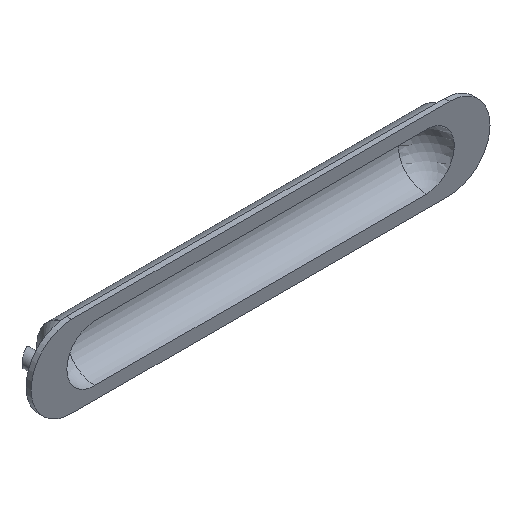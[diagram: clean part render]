
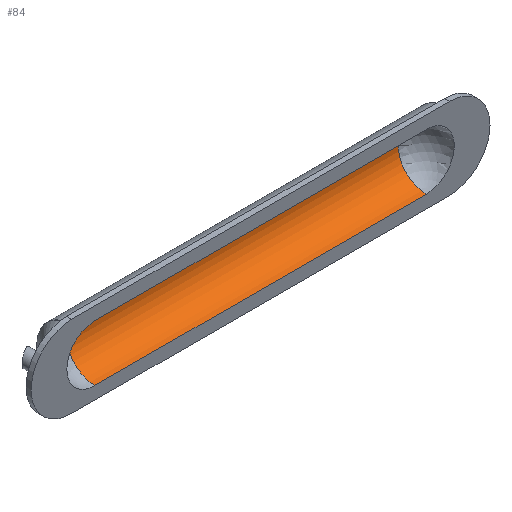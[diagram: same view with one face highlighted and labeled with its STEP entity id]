
A CAD part, isometric view. The second image highlights one B-rep face of the part: STEP entity #84.
In plain terms, the highlighted cylindrical face has radius 5.5 mm (diameter 11 mm), a partial arc.
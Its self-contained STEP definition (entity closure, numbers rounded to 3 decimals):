
#84 = ADVANCED_FACE( '', ( #118 ), #119, .F. );
#118 = FACE_OUTER_BOUND( '', #168, .T. );
#119 = CYLINDRICAL_SURFACE( '', #169, 5.5 );
#168 = EDGE_LOOP( '', ( #258, #259, #260, #261 ) );
#169 = AXIS2_PLACEMENT_3D( '', #262, #263, #264 );
#258 = ORIENTED_EDGE( '', *, *, #380, .F. );
#259 = ORIENTED_EDGE( '', *, *, #387, .F. );
#260 = ORIENTED_EDGE( '', *, *, #381, .F. );
#261 = ORIENTED_EDGE( '', *, *, #379, .T. );
#262 = CARTESIAN_POINT( '', ( 8., 0., 0. ) );
#263 = DIRECTION( '', ( -1., 0., 0. ) );
#264 = DIRECTION( '', ( 0., 0., -1. ) );
#379 = EDGE_CURVE( '', #436, #435, #438, .T. );
#380 = EDGE_CURVE( '', #439, #435, #440, .T. );
#381 = EDGE_CURVE( '', #436, #441, #442, .T. );
#387 = EDGE_CURVE( '', #441, #439, #452, .T. );
#435 = VERTEX_POINT( '', #624 );
#436 = VERTEX_POINT( '', #625 );
#438 = CIRCLE( '', #627, 5.5 );
#439 = VERTEX_POINT( '', #628 );
#440 = LINE( '', #629, #630 );
#441 = VERTEX_POINT( '', #631 );
#442 = LINE( '', #632, #633 );
#452 = CIRCLE( '', #645, 5.5 );
#624 = CARTESIAN_POINT( '', ( 72.5, 0., 5.5 ) );
#625 = CARTESIAN_POINT( '', ( 72.5, 0., -5.5 ) );
#627 = AXIS2_PLACEMENT_3D( '', #861, #862, #863 );
#628 = CARTESIAN_POINT( '', ( 7.5, 0., 5.5 ) );
#629 = CARTESIAN_POINT( '', ( 8., 0., 5.5 ) );
#630 = VECTOR( '', #864, 1. );
#631 = CARTESIAN_POINT( '', ( 7.5, 0., -5.5 ) );
#632 = CARTESIAN_POINT( '', ( 8., 0., -5.5 ) );
#633 = VECTOR( '', #865, 1. );
#645 = AXIS2_PLACEMENT_3D( '', #877, #878, #879 );
#861 = CARTESIAN_POINT( '', ( 72.5, 0., 0. ) );
#862 = DIRECTION( '', ( 1., 0., 0. ) );
#863 = DIRECTION( '', ( 0., -1., 0. ) );
#864 = DIRECTION( '', ( 1., 0., 0. ) );
#865 = DIRECTION( '', ( -1., 0., 0. ) );
#877 = CARTESIAN_POINT( '', ( 7.5, 0., 0. ) );
#878 = DIRECTION( '', ( 1., 0., 0. ) );
#879 = DIRECTION( '', ( 0., -1., 0. ) );
